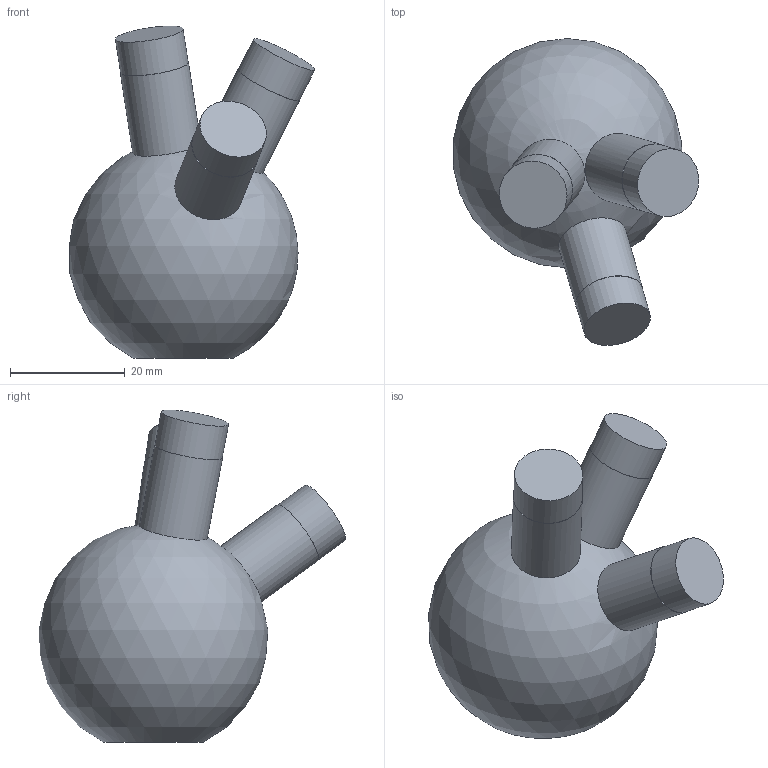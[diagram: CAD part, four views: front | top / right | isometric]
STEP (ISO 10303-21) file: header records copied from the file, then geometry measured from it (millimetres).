
FILE_DESCRIPTION(('Open CASCADE Model'),'2;1');
FILE_NAME('Open CASCADE Shape Model','2026-10-21T12:47:57',('Author'),( 'Open CASCADE'),'Open CASCADE STEP processor 7.9','Open CASCADE 7.9' ,'Unknown');
FILE_SCHEMA(('AUTOMOTIVE_DESIGN { 1 0 10303 214 1 1 1 1 }'));
Length unit declared in the file: millimetre
Products named in the file (1): Open CASCADE STEP translator 7.9 100
Bounding box: 42.69 x 53.41 x 57.76 mm (x, y, z)
Volume: 39512.8 mm3; surface area: 7435 mm2
Topology: 1 solids, 1 shells, 16 faces, 27 edges, 18 vertices
Faces by surface type: plane 8, cylinder 7, sphere 1
Full cylindrical faces by diameter (mm): 6.1 x1, 11.9 x3, 12 x3
Entity records: 1023 total; most frequent: CARTESIAN_POINT 399, DIRECTION 129, ORIENTED_EDGE 54, PCURVE 54, DEFINITIONAL_REPRESENTATION 54, LINE 43, VECTOR 43, AXIS2_PLACEMENT_3D 37
